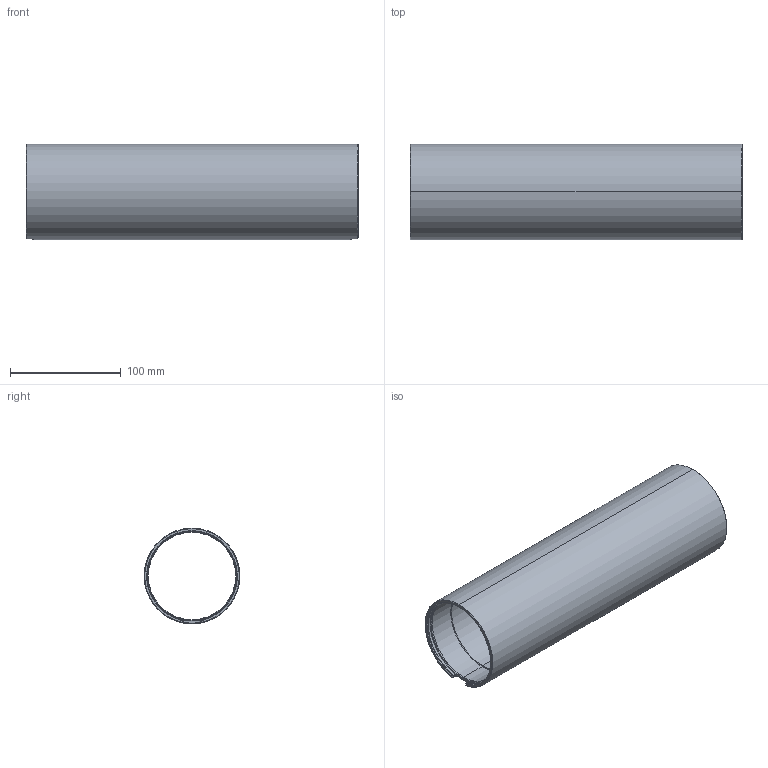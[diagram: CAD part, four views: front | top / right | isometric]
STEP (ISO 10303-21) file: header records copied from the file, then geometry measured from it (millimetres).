
FILE_DESCRIPTION (( 'STEP AP203' ), '1' );
FILE_NAME ('BR-106278-300_RevA.step', '2026-01-13T23:24:04', ( '' ), ( '' ), 'SwSTEP 2.0', 'SolidWorks 2024', '' );
FILE_SCHEMA (( 'CONFIG_CONTROL_DESIGN' ));
Length unit declared in the file: millimetre
Products named in the file (1): BR-106278-300
Bounding box: 300 x 86.48 x 86.5 mm (x, y, z)
Volume: 280035.6 mm3; surface area: 157592.7 mm2
Topology: 1 solids, 1 shells, 86 faces, 224 edges, 140 vertices
Faces by surface type: bspline 24, cylinder 22, cone 14, plane 14, torus 12
Entity records: 5752 total; most frequent: CARTESIAN_POINT 3834, ORIENTED_EDGE 448, DIRECTION 294, EDGE_CURVE 224, VERTEX_POINT 140, AXIS2_PLACEMENT_3D 127, B_SPLINE_CURVE_WITH_KNOTS 116, EDGE_LOOP 88
